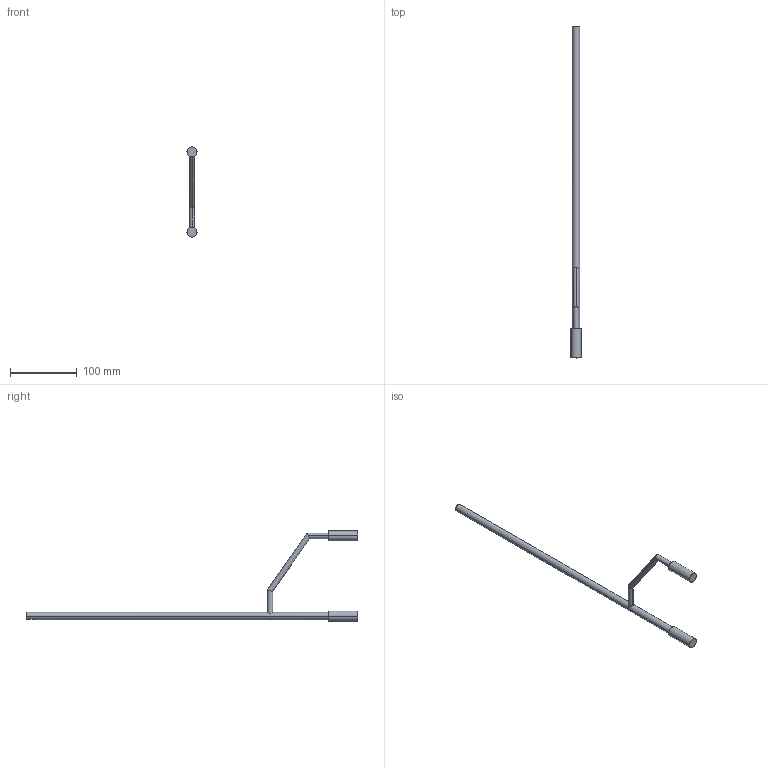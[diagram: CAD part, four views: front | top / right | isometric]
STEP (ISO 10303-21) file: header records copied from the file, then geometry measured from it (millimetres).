
FILE_DESCRIPTION (( 'STEP AP214' ), '1' );
FILE_NAME ('2S_RUL_Frontstütze_O710701300_500.step', '2010-09-07T14:19:18', ( 'grass' ), ( '' ), 'SwSTEP 2.0', 'SolidWorks 2010', '' );
FILE_SCHEMA (( 'AUTOMOTIVE_DESIGN' ));
Length unit declared in the file: millimetre
Products named in the file (1): 2S_RUL_Frontstütze_O710701300_500
Bounding box: 15 x 497.05 x 135 mm (x, y, z)
Volume: 38179.7 mm3; surface area: 37434.3 mm2
Topology: 1 solids, 1 shells, 33 faces, 74 edges, 48 vertices
Faces by surface type: cylinder 18, plane 15
Entity records: 1240 total; most frequent: CARTESIAN_POINT 454, DIRECTION 148, ORIENTED_EDGE 148, EDGE_CURVE 74, AXIS2_PLACEMENT_3D 56, VERTEX_POINT 48, EDGE_LOOP 42, VECTOR 36
